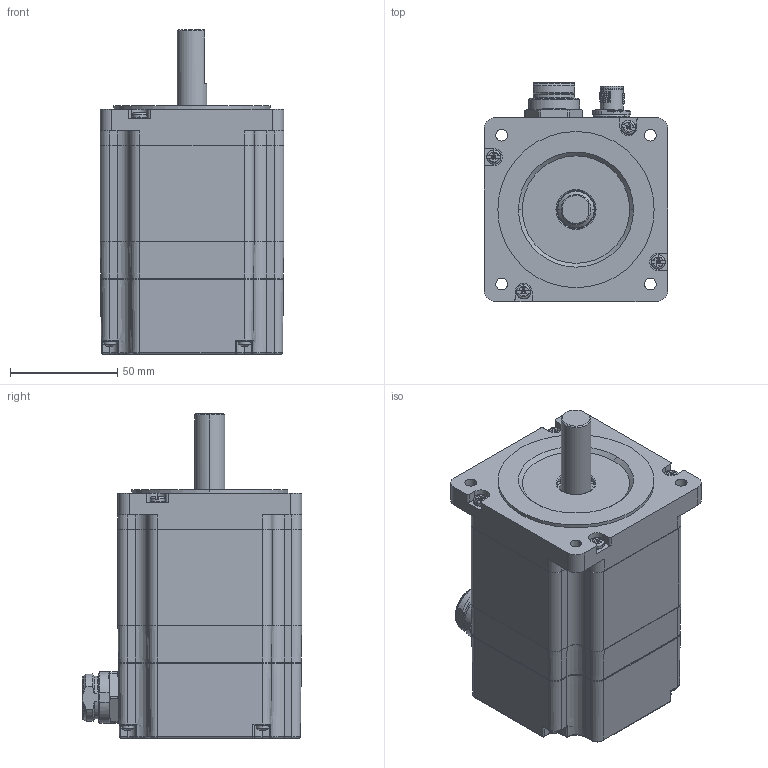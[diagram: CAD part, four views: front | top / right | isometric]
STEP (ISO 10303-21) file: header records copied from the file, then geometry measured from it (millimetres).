
FILE_DESCRIPTION (( 'STEP AP214' ), '1' );
FILE_NAME ('M86SH80-TO0512L05C.STEP', '2025-05-24T08:45:41', ( '' ), ( '' ), 'SwSTEP 2.0', 'SolidWorks 2019', '' );
FILE_SCHEMA (( 'AUTOMOTIVE_DESIGN' ));
Length unit declared in the file: millimetre
Products named in the file (1): M86SH80-TO0512L05C
Bounding box: 85.9 x 102.59 x 151.5 mm (x, y, z)
Volume: 437195.9 mm3; surface area: 165386.3 mm2
Topology: 31 solids, 31 shells, 2067 faces, 5281 edges, 3377 vertices
Faces by surface type: plane 961, cylinder 492, bspline 261, cone 221, torus 116, sphere 16
Entity records: 98162 total; most frequent: CARTESIAN_POINT 25787, ORIENTED_EDGE 10484, DIRECTION 9860, EDGE_CURVE 5242, AXIS2_PLACEMENT_3D 3536, VERTEX_POINT 3377, VECTOR 2788, LINE 2788
